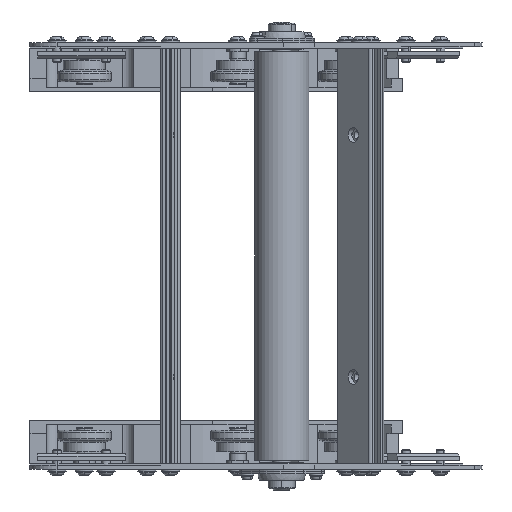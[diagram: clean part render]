
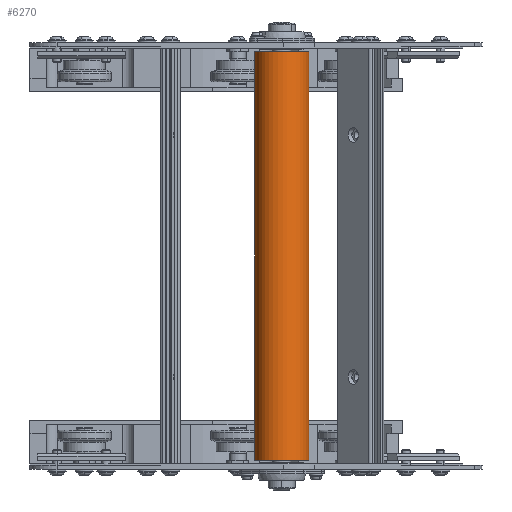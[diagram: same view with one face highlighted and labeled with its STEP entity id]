
A CAD part, front view. The second image highlights one B-rep face of the part: STEP entity #6270.
In plain terms, the highlighted cylindrical face has radius 25 mm (diameter 50 mm), a partial arc.
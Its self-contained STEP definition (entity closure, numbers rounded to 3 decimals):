
#545 = CIRCLE ( 'NONE', #8411, 25. ) ;
#850 = CARTESIAN_POINT ( 'NONE',  ( -25., 0., 188. ) ) ;
#1085 = EDGE_CURVE ( 'NONE', #5125, #17229, #12109, .T. ) ;
#1335 = CARTESIAN_POINT ( 'NONE',  ( -25., 0., -188. ) ) ;
#1417 = ORIENTED_EDGE ( 'NONE', *, *, #1085, .F. ) ;
#2464 = DIRECTION ( 'NONE',  ( 1., 0., 0. ) ) ;
#2591 = DIRECTION ( 'NONE',  ( 0., 0., -1. ) ) ;
#3455 = VERTEX_POINT ( 'NONE', #850 ) ;
#3983 = VECTOR ( 'NONE', #10447, 1000. ) ;
#5125 = VERTEX_POINT ( 'NONE', #18046 ) ;
#5392 = DIRECTION ( 'NONE',  ( 0., 0., 1. ) ) ;
#5973 = DIRECTION ( 'NONE',  ( 0., 0., 1. ) ) ;
#6100 = DIRECTION ( 'NONE',  ( 0., 0., -1. ) ) ;
#6270 = ADVANCED_FACE ( 'NONE', ( #10676 ), #14284, .T. ) ;
#6493 = EDGE_CURVE ( 'NONE', #5125, #14899, #8309, .T. ) ;
#7079 = ORIENTED_EDGE ( 'NONE', *, *, #6493, .T. ) ;
#8250 = EDGE_CURVE ( 'NONE', #17229, #3455, #13219, .T. ) ;
#8309 = LINE ( 'NONE', #16710, #15976 ) ;
#8411 = AXIS2_PLACEMENT_3D ( 'NONE', #15275, #6100, #16845 ) ;
#8951 = EDGE_LOOP ( 'NONE', ( #12550, #1417, #7079, #15240 ) ) ;
#10099 = CARTESIAN_POINT ( 'NONE',  ( 0., 0., -188. ) ) ;
#10447 = DIRECTION ( 'NONE',  ( 0., 0., 1. ) ) ;
#10676 = FACE_OUTER_BOUND ( 'NONE', #8951, .T. ) ;
#12109 = CIRCLE ( 'NONE', #12238, 25. ) ;
#12238 = AXIS2_PLACEMENT_3D ( 'NONE', #10099, #2591, #14858 ) ;
#12356 = CARTESIAN_POINT ( 'NONE',  ( 25., 0., 188. ) ) ;
#12468 = EDGE_CURVE ( 'NONE', #14899, #3455, #545, .T. ) ;
#12550 = ORIENTED_EDGE ( 'NONE', *, *, #8250, .F. ) ;
#13219 = LINE ( 'NONE', #1335, #3983 ) ;
#13829 = AXIS2_PLACEMENT_3D ( 'NONE', #16243, #5392, #2464 ) ;
#14284 = CYLINDRICAL_SURFACE ( 'NONE', #13829, 25. ) ;
#14858 = DIRECTION ( 'NONE',  ( -1., 0., 0. ) ) ;
#14899 = VERTEX_POINT ( 'NONE', #12356 ) ;
#15240 = ORIENTED_EDGE ( 'NONE', *, *, #12468, .T. ) ;
#15275 = CARTESIAN_POINT ( 'NONE',  ( 0., 0., 188. ) ) ;
#15976 = VECTOR ( 'NONE', #5973, 1000. ) ;
#16243 = CARTESIAN_POINT ( 'NONE',  ( 0., 0., -188. ) ) ;
#16710 = CARTESIAN_POINT ( 'NONE',  ( 25., 0., -188. ) ) ;
#16845 = DIRECTION ( 'NONE',  ( -1., 0., 0. ) ) ;
#17229 = VERTEX_POINT ( 'NONE', #19667 ) ;
#18046 = CARTESIAN_POINT ( 'NONE',  ( 25., 0., -188. ) ) ;
#19667 = CARTESIAN_POINT ( 'NONE',  ( -25., 0., -188. ) ) ;
